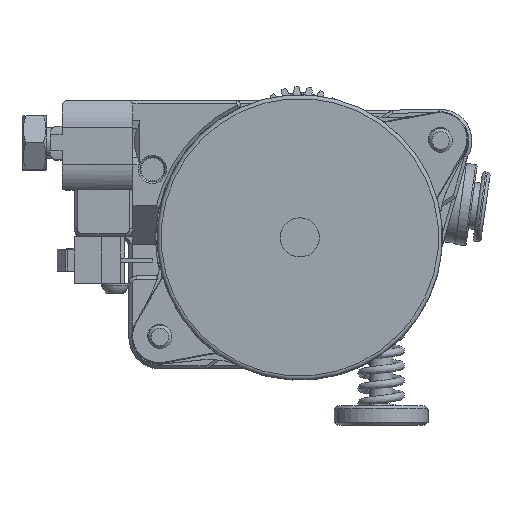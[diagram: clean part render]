
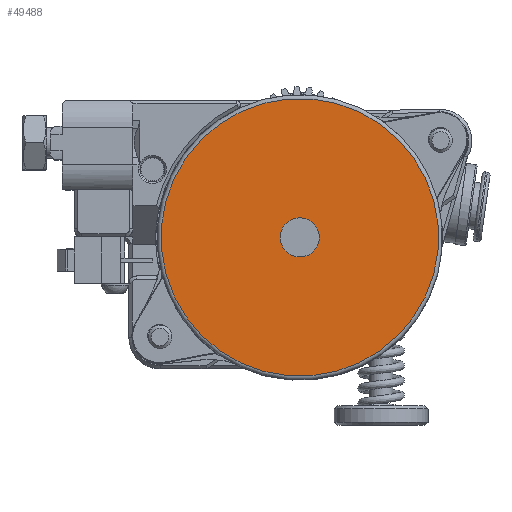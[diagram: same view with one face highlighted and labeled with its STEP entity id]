
A CAD part, top view. The second image highlights one B-rep face of the part: STEP entity #49488.
In plain terms, the highlighted planar face has unit normal (0, 0, 1) as drawn and (0, 0, -1) by its records, which use the part's own axes.
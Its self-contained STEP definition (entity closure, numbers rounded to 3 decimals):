
#707=FACE_BOUND('',#10845,.T.);
#4580=CIRCLE('',#53503,17.75);
#4584=CIRCLE('',#53509,2.5);
#7787=FACE_OUTER_BOUND('',#10844,.T.);
#10844=EDGE_LOOP('',(#38471));
#10845=EDGE_LOOP('',(#38472));
#21656=VERTEX_POINT('',#87651);
#21659=VERTEX_POINT('',#87661);
#27681=EDGE_CURVE('',#21656,#21656,#4580,.T.);
#27686=EDGE_CURVE('',#21659,#21659,#4584,.T.);
#38471=ORIENTED_EDGE('',*,*,#27681,.F.);
#38472=ORIENTED_EDGE('',*,*,#27686,.T.);
#47935=PLANE('',#53508);
#49488=ADVANCED_FACE('',(#7787,#707),#47935,.T.);
#53503=AXIS2_PLACEMENT_3D('',#87652,#62104,#62105);
#53508=AXIS2_PLACEMENT_3D('',#87660,#62115,#62116);
#53509=AXIS2_PLACEMENT_3D('',#87662,#62117,#62118);
#62104=DIRECTION('center_axis',(0.,0.,1.));
#62105=DIRECTION('ref_axis',(-1.,0.,0.));
#62115=DIRECTION('center_axis',(0.,0.,-1.));
#62116=DIRECTION('ref_axis',(-1.,0.,0.));
#62117=DIRECTION('center_axis',(0.,0.,1.));
#62118=DIRECTION('ref_axis',(-1.,0.,0.));
#87651=CARTESIAN_POINT('',(17.75,25.5,-24.));
#87652=CARTESIAN_POINT('Origin',(0.,25.5,-24.));
#87660=CARTESIAN_POINT('Origin',(0.,25.5,-24.));
#87661=CARTESIAN_POINT('',(-2.5,25.5,-24.));
#87662=CARTESIAN_POINT('Origin',(0.,25.5,-24.));
